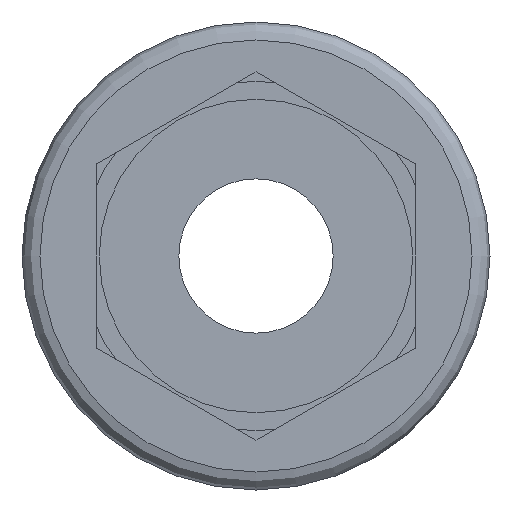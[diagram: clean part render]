
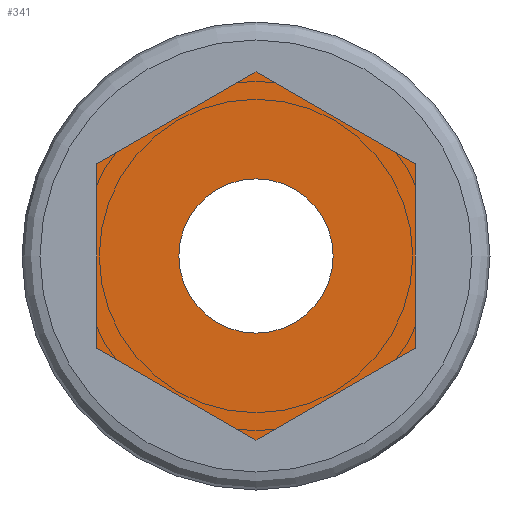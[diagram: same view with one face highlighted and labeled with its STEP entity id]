
A CAD part, front view. The second image highlights one B-rep face of the part: STEP entity #341.
In plain terms, the highlighted planar face has unit normal (0, -1, 0).
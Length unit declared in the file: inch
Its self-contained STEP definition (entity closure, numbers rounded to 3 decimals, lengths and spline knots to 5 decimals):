
#19=FACE_BOUND('',#120,.T.);
#30=PLANE('',#392);
#42=LINE('',#575,#65);
#45=LINE('',#580,#68);
#47=LINE('',#584,#70);
#49=LINE('',#588,#72);
#51=LINE('',#592,#74);
#52=LINE('',#594,#75);
#65=VECTOR('',#470,0.3937);
#68=VECTOR('',#475,0.3937);
#70=VECTOR('',#479,0.3937);
#72=VECTOR('',#483,0.3937);
#74=VECTOR('',#487,0.3937);
#75=VECTOR('',#490,0.3937);
#97=FACE_OUTER_BOUND('',#119,.T.);
#119=EDGE_LOOP('',(#299,#300,#301,#302,#303,#304));
#120=EDGE_LOOP('',(#305,#306));
#143=CIRCLE('',#393,0.03);
#144=CIRCLE('',#394,0.03);
#170=VERTEX_POINT('',#572);
#171=VERTEX_POINT('',#574);
#172=VERTEX_POINT('',#578);
#173=VERTEX_POINT('',#582);
#174=VERTEX_POINT('',#586);
#175=VERTEX_POINT('',#590);
#176=VERTEX_POINT('',#596);
#177=VERTEX_POINT('',#597);
#210=EDGE_CURVE('',#170,#171,#42,.T.);
#213=EDGE_CURVE('',#172,#170,#45,.T.);
#215=EDGE_CURVE('',#173,#172,#47,.T.);
#217=EDGE_CURVE('',#174,#173,#49,.T.);
#219=EDGE_CURVE('',#175,#174,#51,.T.);
#220=EDGE_CURVE('',#171,#175,#52,.T.);
#221=EDGE_CURVE('',#176,#177,#143,.T.);
#222=EDGE_CURVE('',#177,#176,#144,.T.);
#299=ORIENTED_EDGE('',*,*,#220,.F.);
#300=ORIENTED_EDGE('',*,*,#210,.F.);
#301=ORIENTED_EDGE('',*,*,#213,.F.);
#302=ORIENTED_EDGE('',*,*,#215,.F.);
#303=ORIENTED_EDGE('',*,*,#217,.F.);
#304=ORIENTED_EDGE('',*,*,#219,.F.);
#305=ORIENTED_EDGE('',*,*,#221,.F.);
#306=ORIENTED_EDGE('',*,*,#222,.F.);
#341=ADVANCED_FACE('',(#97,#19),#30,.T.);
#392=AXIS2_PLACEMENT_3D('',#595,#491,#492);
#393=AXIS2_PLACEMENT_3D('',#598,#493,#494);
#394=AXIS2_PLACEMENT_3D('',#599,#495,#496);
#470=DIRECTION('',(0.866,0.,-0.5));
#475=DIRECTION('',(0.866,0.,0.5));
#479=DIRECTION('',(0.,0.,1.));
#483=DIRECTION('',(-0.866,0.,0.5));
#487=DIRECTION('',(-0.866,0.,-0.5));
#490=DIRECTION('',(0.,0.,-1.));
#491=DIRECTION('center_axis',(0.,-1.,0.));
#492=DIRECTION('ref_axis',(1.,0.,0.));
#493=DIRECTION('center_axis',(0.,-1.,0.));
#494=DIRECTION('ref_axis',(0.,0.,-1.));
#495=DIRECTION('center_axis',(0.,-1.,0.));
#496=DIRECTION('ref_axis',(0.,0.,-1.));
#572=CARTESIAN_POINT('',(0.,0.14,0.07159));
#574=CARTESIAN_POINT('',(0.062,0.14,0.0358));
#575=CARTESIAN_POINT('',(0.062,0.14,0.0358));
#578=CARTESIAN_POINT('',(-0.062,0.14,0.0358));
#580=CARTESIAN_POINT('',(0.,0.14,0.07159));
#582=CARTESIAN_POINT('',(-0.062,0.14,-0.0358));
#584=CARTESIAN_POINT('',(-0.062,0.14,0.0358));
#586=CARTESIAN_POINT('',(0.,0.14,-0.07159));
#588=CARTESIAN_POINT('',(-0.062,0.14,-0.0358));
#590=CARTESIAN_POINT('',(0.062,0.14,-0.0358));
#592=CARTESIAN_POINT('',(0.,0.14,-0.07159));
#594=CARTESIAN_POINT('',(0.062,0.14,-0.0358));
#595=CARTESIAN_POINT('Origin',(0.,0.14,0.));
#596=CARTESIAN_POINT('',(-0.03,0.14,0.));
#597=CARTESIAN_POINT('',(0.,0.14,0.03));
#598=CARTESIAN_POINT('Origin',(0.,0.14,0.));
#599=CARTESIAN_POINT('Origin',(0.,0.14,0.));
